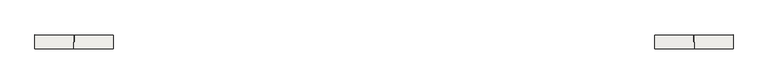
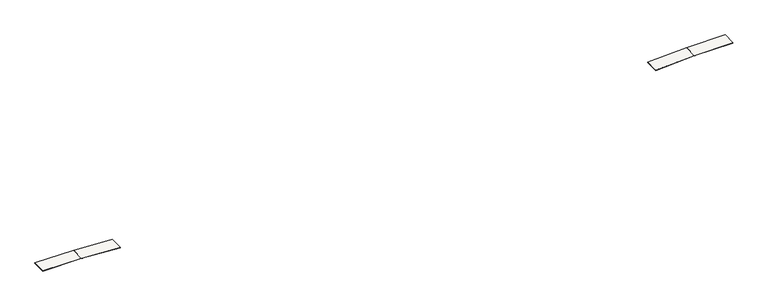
"""IFC4 building model written with IfcOpenShell, lengths in millimetres: slab geometry, アスファルト : アスファルト."""

from ifc_helpers import new_model, si_unit, frame, origin, place, context, project, spatial, polyline, outline, extrude, source, transform, mapped, element, save


def slab_016cc149(model_context):
    return source(origin(), model_context, "Body", "SweptSolid", [
        extrude(outline(polyline([(0.0, -7000.0), (0.0, 0.0), (20024.9843945, 0.0), (20024.9843945, -7000.0), (0.0, -7000.0)])), frame((-128488.1603142, 650.0578498, 15363.2495322), z_axis=(0.049937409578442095, -0.00014391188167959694, 0.9987523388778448), x_axis=(-0.9987481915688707, 0.00287823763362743, 0.049937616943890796)), (0.0, 0.0, 1.0), 200.0),
        extrude(outline(polyline([(-148457.9169502, 7707.6366637), (-148478.0897825, 707.6657311), (-168478.0067327, 765.3023948), (-168457.8339004, 7765.2733274), (-148457.9169502, 7707.6366637)])), frame((0.0, 0.0, 16363.0), z_axis=(0.0, 0.0, 1.0), x_axis=(1.0, 0.0, 0.0)), (0.0, 0.0, 1.0), 200.0),
        extrude(outline(polyline([(0.0, -7000.0), (0.0, 0.0), (20024.4924043, 0.0), (20024.4924043, -7000.0), (0.0, -7000.0)])), frame((148734.3931297, 7649.9895868, 15373.1456146), z_axis=(-0.049444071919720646, -0.00018008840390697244, 0.9987768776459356), x_axis=(0.9987702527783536, 0.0036377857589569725, 0.04944439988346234)), (0.0, 0.0, 1.0), 200.0),
        extrude(outline(polyline([(188724.2389961, 7795.6431957), (188749.7346808, 795.6896266), (168749.8673404, 722.8448133), (168724.3716557, 7722.7983824), (188724.2389961, 7795.6431957)])), frame((0.0, 0.0, 16363.0), z_axis=(0.0, 0.0, 1.0), x_axis=(1.0, 0.0, 0.0)), (0.0, 0.0, 1.0), 200.0),
    ])


if __name__ == "__main__":
    model = new_model("IFC4")
    model_context = context("Model", 3, world=origin())
    ifc_project = project(units=[si_unit("LENGTHUNIT", "METRE", prefix="MILLI")], contexts=[model_context])
    site = spatial("IfcSite", under=ifc_project)
    building = spatial("IfcBuilding", under=site)
    placement = place(None, origin())
    slab_shape = slab_016cc149(model_context)
    element("IfcSlab", 1, ObjectType="アスファルト : アスファルト", at=placement, inside=building, context=model_context, shape_type="MappedRepresentation", body=[
        mapped(slab_shape, transform((0.0, 0.0, 0.0), x_axis=(1.0, 0.0, 0.0), y_axis=(0.0, 1.0, 0.0), z_axis=(0.0, 0.0, 1.0))),
    ])
    save(model, "model.ifc")
